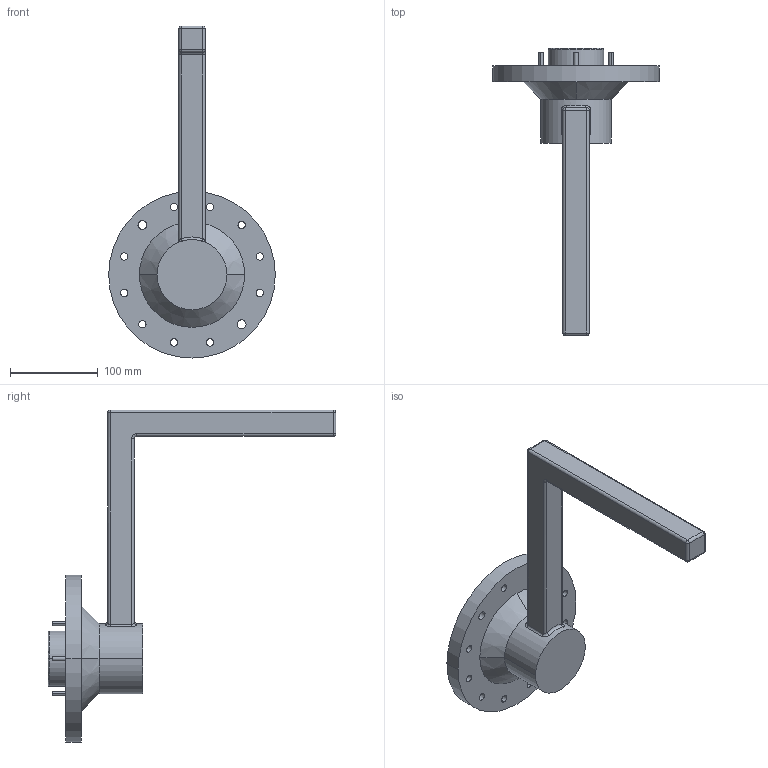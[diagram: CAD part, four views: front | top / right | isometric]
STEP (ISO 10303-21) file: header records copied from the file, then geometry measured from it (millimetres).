
FILE_DESCRIPTION(('CATIA V5 STEP Exchange'),'2;1');
FILE_NAME('C:\Users\Administrator\Desktop\프로젝트\Gripper\Assy-Gripper-arm.stp','2024-09-23T03:20:30+00:00',('none'),('none'),'CATIA Unofficial Packaging Version','3DEXPERIENCE Platform STEP AP203 v1','none');
FILE_SCHEMA(('CONFIG_CONTROL_DESIGN'));
Length unit declared in the file: millimetre
Products named in the file (1): Assy-Gripper
Assembly tree (1 placements, depth 2):
  Assy-Gripper
    #57
Bounding box: 190 x 328 x 378.5 mm (x, y, z)
Volume: 1394830.1 mm3; surface area: 146129.4 mm2
Topology: 1 solids, 1 shells, 88 faces, 219 edges, 134 vertices
Faces by surface type: cylinder 54, plane 15, sphere 6, torus 6, bspline 4, cone 3
Entity records: 2901 total; most frequent: CARTESIAN_POINT 872, ORIENTED_EDGE 426, DIRECTION 326, EDGE_CURVE 213, AXIS2_PLACEMENT_3D 192, VERTEX_POINT 134, CIRCLE 128, EDGE_LOOP 119
